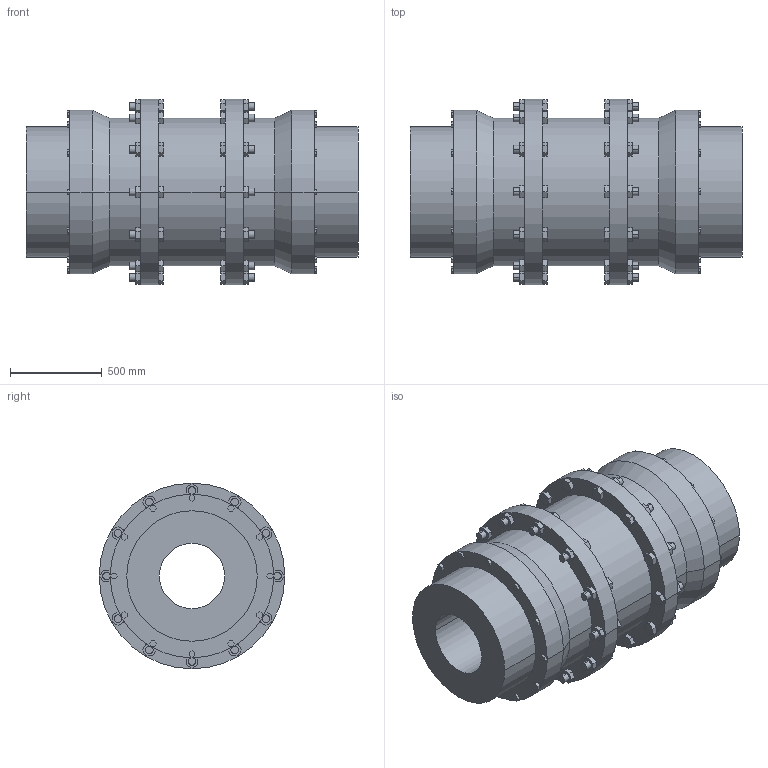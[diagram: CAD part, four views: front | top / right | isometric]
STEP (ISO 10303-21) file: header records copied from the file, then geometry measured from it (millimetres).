
FILE_DESCRIPTION((''),'2;1');
FILE_NAME('A19030300-0_ASM','2018-10-17T',('AB_Roschiwal'),('RENK AG'),'PRO/ENGINEER BY PARAMETRIC TECHNOLOGY CORPORATION, 2015440','PRO/ENGINEER BY PARAMETRIC TECHNOLOGY CORPORATION, 2015440','');
FILE_SCHEMA(('CONFIG_CONTROL_DESIGN'));
Length unit declared in the file: millimetre
Products named in the file (3): SBLK425_GEHAEUSE; SBLK425_NABE; A19030300-0_ASM
Assembly tree (3 placements, depth 2):
  A19030300-0_ASM
    SBLK425_GEHAEUSE
    SBLK425_NABE  x2
Bounding box: 1807 x 1010 x 1010 mm (x, y, z)
Volume: 508368309.2 mm3; surface area: 13089147.7 mm2
Topology: 3 solids, 3 shells, 632 faces, 1552 edges, 1032 vertices
Faces by surface type: plane 544, cylinder 84, cone 4
Entity records: 18164 total; most frequent: CARTESIAN_POINT 3170, ORIENTED_EDGE 3056, DIRECTION 2932, EDGE_CURVE 1528, VECTOR 1376, LINE 1376, VERTEX_POINT 1016, AXIS2_PLACEMENT_3D 778
